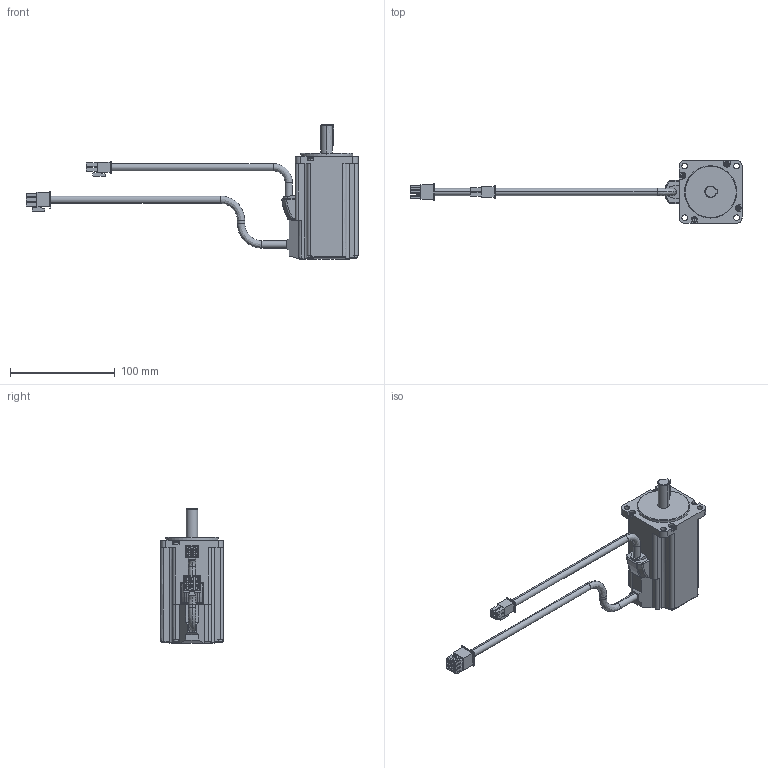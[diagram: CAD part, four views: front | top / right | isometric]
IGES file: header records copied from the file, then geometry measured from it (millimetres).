
Start section:  PTC IGES file: RSMZ-02BA3xS.igs
Global section: file name: RSMZ-02BA3xS.igs; native system: Pro/ENGINEER by Parametric Technology Corporation; preprocessor: 2004440; author: Administrator; organization: Unknown; date: 070904.190657; units: millimetre
Bounding box: 317.7 x 60 x 128.5 mm (x, y, z)
Volume: 340190.8 mm3; surface area: 47520.9 mm2
Topology: 1 solids, 1 shells, 465 faces, 1176 edges, 763 vertices
Faces by surface type: bspline 335, revolution 130
